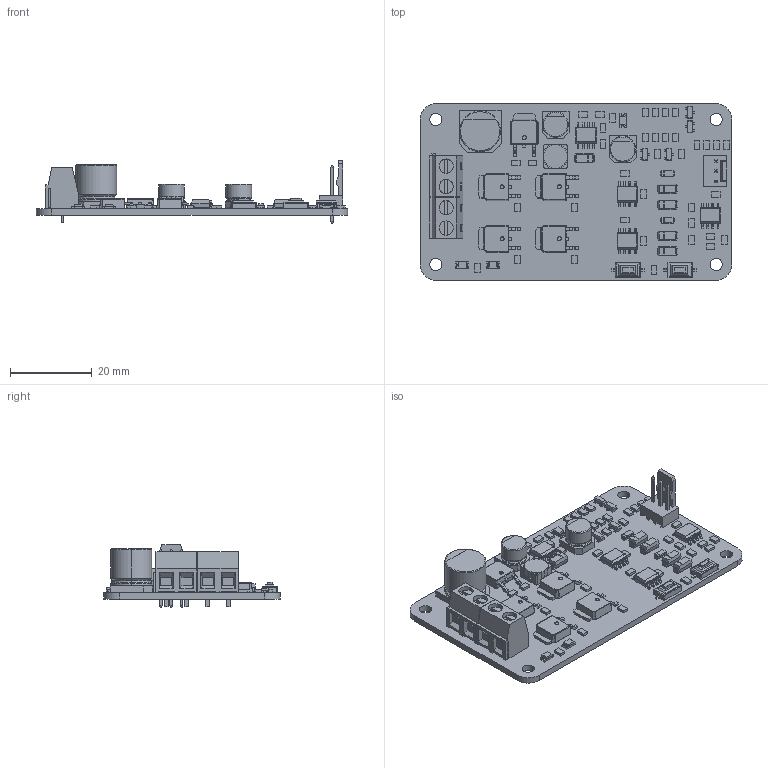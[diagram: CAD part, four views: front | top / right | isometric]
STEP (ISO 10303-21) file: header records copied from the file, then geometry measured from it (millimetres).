
FILE_DESCRIPTION (( 'STEP AP214' ), '1' );
FILE_NAME ('MD10C.STEP', '2018-04-24T10:09:57', ( '' ), ( '' ), 'SwSTEP 2.0', 'SolidWorks 2015', '' );
FILE_SCHEMA (( 'AUTOMOTIVE_DESIGN' ));
Length unit declared in the file: millimetre
Products named in the file (56): SOIC08 narrow; R4; R20; R1; R6; C13; R14; C5; R5; R22; C15; R19; R3; SMD E Cap_10x10.7H; 725162184; SMD-Inductor; SOT23_Predeterminado; R12; C11; R9; R8; SMT-Diode_W2.2xL5.0xH2.2; R17; C4; 725166264; C14; C8; R26; c-282836-2-h-3d; R15; R13; R25; C3; R10; Extruded_2; R16; SMT-LED-3216_По умолчаниюY§é§_§_§ú§e; R2; SMD E Cap_6.3x6H; R11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
Assembly tree (111 placements, depth 4):
  MD10C
    Board
    R26
      725162184
        Extruded
    R25
      725162184
        Extruded
    C15
      725166264
        Extruded_2
    R21
      725162184
        Extruded
    C4
      725166264
        Extruded_2
    C5
      725162184
        Extruded
    C7
      725166264
        Extruded_2
    C8
      725162184
        Extruded
    C9
      725162184
        Extruded
    C10
      725166264
        Extruded_2
    C11
      725162184
        Extruded
    C12
      725162184
        Extruded
    C13
      725162184
        Extruded
    C14
      725166264
        Extruded_2
    R1
      725162184
        Extruded
    R2
      725166264
        Extruded_2
    R3
      725162184
        Extruded
    R4
      725162184
        Extruded
    R5
      725162184
        Extruded
    R6
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Bounding box: 76.2 x 43.18 x 15.26 mm (x, y, z)
Volume: 8959 mm3; surface area: 12603.4 mm2
Topology: 138 solids, 138 shells, 3461 faces, 7969 edges, 4670 vertices
Faces by surface type: plane 1719, cylinder 892, bspline 632, sphere 168, torus 30, cone 20
Entity records: 40374 total; most frequent: CARTESIAN_POINT 12406, ORIENTED_EDGE 4688, DIRECTION 4534, EDGE_CURVE 2344, VECTOR 1550, LINE 1550, AXIS2_PLACEMENT_3D 1492, VERTEX_POINT 1411
